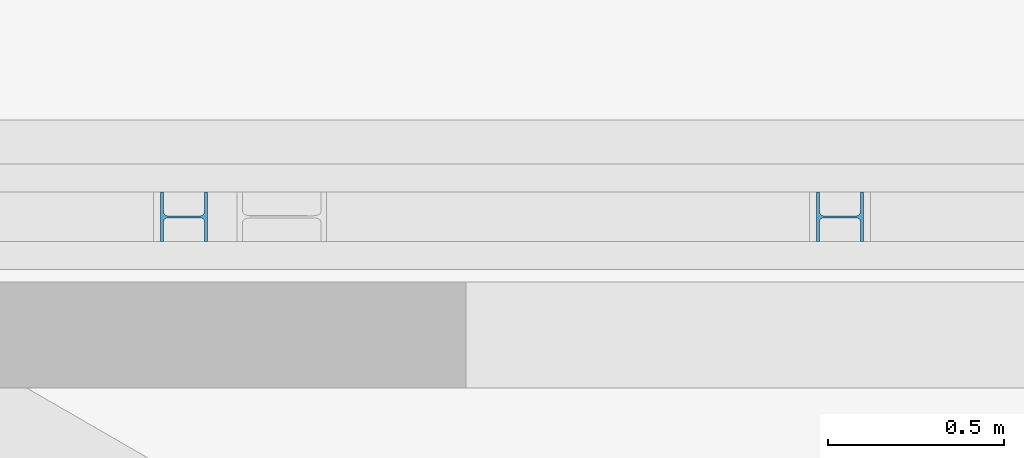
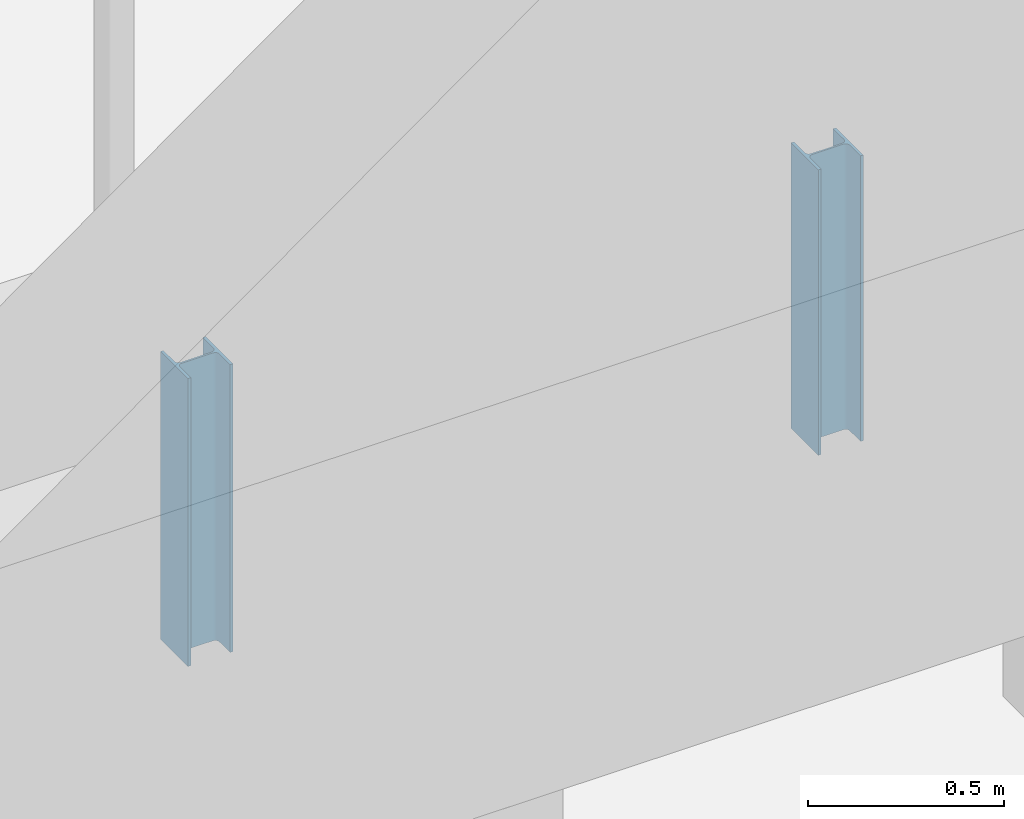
# One storey, part 21 of 34: 2 beams.
"""IFC2X3 building model written with IfcOpenShell, lengths in millimetres."""

from ifc_helpers import new_model, entity, si_unit, converted_unit, derived_unit, direction, frame, frame_2d, origin, place, context, subcontext, project, spatial, i_section, extrude, material, type_object, element, save


model = new_model("IFC2X3")

# Units and contexts
model_context = context("Model", 3, precision=0.01, world=origin(), true_north=direction((6.12303176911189e-17, 1.0)))
body_context = subcontext(model_context, "Body", "Model", "MODEL_VIEW")
ifc_project = project(units=[si_unit("LENGTHUNIT", "METRE", prefix="MILLI"), si_unit("AREAUNIT", "SQUARE_METRE", prefix="MILLI"), si_unit("VOLUMEUNIT", "CUBIC_METRE"), converted_unit("PLANEANGLEUNIT", "DEGREE", entity("IfcRatioMeasure", 0.0174532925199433), si_unit("PLANEANGLEUNIT", "RADIAN"), dimensions=[0, 0, 0, 0, 0, 0, 0]), si_unit("MASSUNIT", "GRAM", prefix="KILO"), derived_unit("MASSDENSITYUNIT", [(si_unit("MASSUNIT", "GRAM", prefix="KILO"), 1), (si_unit("LENGTHUNIT", "METRE"), -3)]), derived_unit("MOMENTOFINERTIAUNIT", [(si_unit("LENGTHUNIT", "METRE"), 4)]), si_unit("TIMEUNIT", "SECOND"), si_unit("FREQUENCYUNIT", "HERTZ"), si_unit("THERMODYNAMICTEMPERATUREUNIT", "DEGREE_CELSIUS"), derived_unit("THERMALTRANSMITTANCEUNIT", [(si_unit("MASSUNIT", "GRAM", prefix="KILO"), 1), (si_unit("THERMODYNAMICTEMPERATUREUNIT", "KELVIN"), -1), (si_unit("TIMEUNIT", "SECOND"), -3)]), derived_unit("VOLUMETRICFLOWRATEUNIT", [(si_unit("LENGTHUNIT", "METRE"), 3), (si_unit("TIMEUNIT", "SECOND"), -1)]), si_unit("ELECTRICCURRENTUNIT", "AMPERE"), si_unit("ELECTRICVOLTAGEUNIT", "VOLT"), si_unit("POWERUNIT", "WATT"), si_unit("FORCEUNIT", "NEWTON", prefix="KILO"), si_unit("ILLUMINANCEUNIT", "LUX"), si_unit("LUMINOUSFLUXUNIT", "LUMEN"), si_unit("LUMINOUSINTENSITYUNIT", "CANDELA"), derived_unit("USERDEFINED", [(si_unit("MASSUNIT", "GRAM", prefix="KILO"), -1), (si_unit("LENGTHUNIT", "METRE"), -2), (si_unit("TIMEUNIT", "SECOND"), 3), (si_unit("LUMINOUSFLUXUNIT", "LUMEN"), 1)]), derived_unit("LINEARVELOCITYUNIT", [(si_unit("LENGTHUNIT", "METRE"), 1), (si_unit("TIMEUNIT", "SECOND"), -1)]), si_unit("PRESSUREUNIT", "PASCAL"), derived_unit("USERDEFINED", [(si_unit("LENGTHUNIT", "METRE"), -2), (si_unit("MASSUNIT", "GRAM", prefix="KILO"), 1), (si_unit("TIMEUNIT", "SECOND"), -2)]), derived_unit("LINEARFORCEUNIT", [(si_unit("MASSUNIT", "GRAM", prefix="KILO"), 1), (si_unit("LENGTHUNIT", "METRE"), 1), (si_unit("TIMEUNIT", "SECOND"), -2), (si_unit("LENGTHUNIT", "METRE"), -1)]), derived_unit("PLANARFORCEUNIT", [(si_unit("MASSUNIT", "GRAM", prefix="KILO"), 1), (si_unit("LENGTHUNIT", "METRE"), 1), (si_unit("TIMEUNIT", "SECOND"), -2), (si_unit("LENGTHUNIT", "METRE"), -2)])], contexts=[model_context])

# Site, building, storey
site_placement = place(None, origin())
site = spatial("IfcSite", under=ifc_project, at=site_placement, Name="Theater aan de Parade", CompositionType="ELEMENT")
building_placement = place(site_placement, origin())
building = spatial("IfcBuilding", under=site, at=building_placement, Name="Theater aan de Parade", CompositionType="ELEMENT")
storey_placement = place(building_placement, frame((0.0, 0.0, 3.49116848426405e-09)))
storey = spatial("IfcBuildingStorey", under=building, at=storey_placement, Name="00 begane grond", CompositionType="ELEMENT", Elevation=3.49116848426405e-09)

# Beams
ifc_material = material(Name="00_PBT_MAT_staal_S355")
beam_type = type_object("IfcBeamType", Name="28_PBT_SF_staal_H-profiel:S355_HE140A", PredefinedType="NOTDEFINED")
beam_1_placement = place(storey_placement, frame((63241.5848518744, 43035.0, 3555.0), z_axis=(1.0, 0.0, 0.0), x_axis=(0.0, 0.0, 1.0)))
element("IfcBeam", 1, at=beam_1_placement, inside=storey, type_object=beam_type, material=ifc_material, Name="28_PBT_SF_staal_H-profiel:S355_HE140A", ObjectType="28_PBT_SF_staal_H-profiel:S355_HE140A", context=body_context, shape_type="SweptSolid", body=[
    extrude(i_section(OverallWidth=140.000000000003, OverallDepth=133.000000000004, WebThickness=5.49999999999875, FlangeThickness=8.49999999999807, FilletRadius=11.999999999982, at=frame_2d((0.0, 0.0), x_axis=(0.0, 1.0))), frame((86.4999999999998, 0.0, 0.0), z_axis=(1.0, 0.0, 0.0), x_axis=(0.0, 0.0, -1.0)), (0.0, 0.0, 1.0), 890.799999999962),
])
beam_2_placement = place(storey_placement, frame((61381.5848518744, 43035.0, 3555.0), z_axis=(1.0, 0.0, 0.0), x_axis=(0.0, 0.0, 1.0)))
element("IfcBeam", 2, at=beam_2_placement, inside=storey, type_object=beam_type, material=ifc_material, Name="28_PBT_SF_staal_H-profiel:S355_HE140A", ObjectType="28_PBT_SF_staal_H-profiel:S355_HE140A", context=body_context, shape_type="SweptSolid", body=[
    extrude(i_section(OverallWidth=140.000000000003, OverallDepth=133.000000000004, WebThickness=5.49999999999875, FlangeThickness=8.49999999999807, FilletRadius=11.999999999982, at=frame_2d((8.66151594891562e-12, 0.0), x_axis=(0.0, 1.0))), frame((79.2000000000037, 0.0, 0.0), z_axis=(1.0, 0.0, 0.0), x_axis=(0.0, 0.0, -1.0)), (0.0, 0.0, 1.0), 898.099999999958),
])

save(model, "model.ifc")
